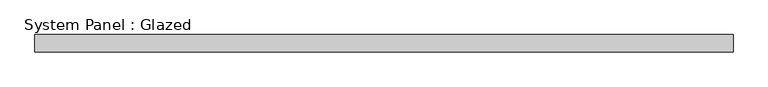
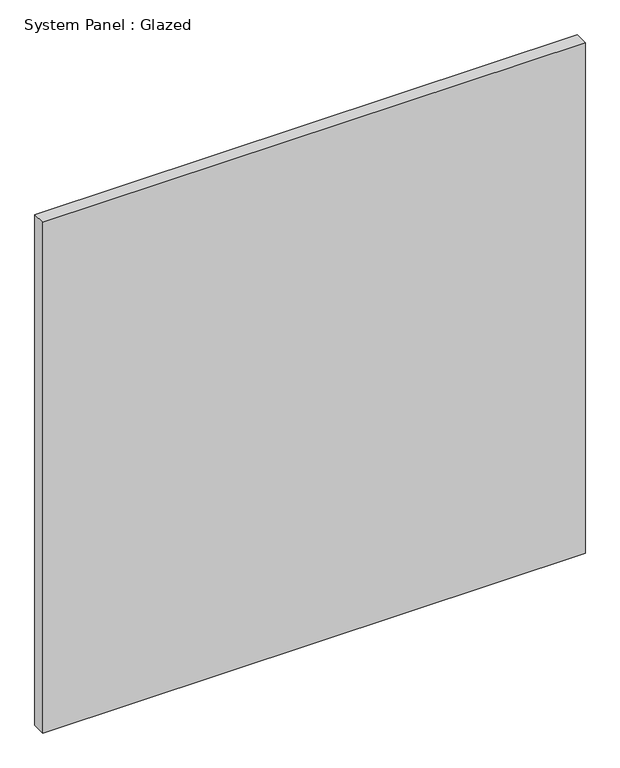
"""IFC4 building model written with IfcOpenShell, lengths in millimetres: plate geometry, System Panel : Glazed."""

from ifc_helpers import new_model, si_unit, origin, origin_with_axes, place, context, project, spatial, polyline, outline, extrude, source, transform, mapped, element, save


def system_panel_glazed_1cdab955(model_context):
    return source(origin(), model_context, "Body", "SweptSolid", [
        extrude(outline(polyline([(501.3420756, 24.5), (-501.3420756, 24.5), (-501.3420756, 49.5), (501.3420756, 49.5), (501.3420756, 24.5)])), origin_with_axes(), (0.0, 0.0, 1.0), 997.3252755),
    ])


if __name__ == "__main__":
    model = new_model("IFC4")
    model_context = context("Model", 3, world=origin())
    ifc_project = project(units=[si_unit("LENGTHUNIT", "METRE", prefix="MILLI")], contexts=[model_context])
    site = spatial("IfcSite", under=ifc_project)
    building = spatial("IfcBuilding", under=site)
    placement = place(None, origin())
    system_panel_glazed_shape = system_panel_glazed_1cdab955(model_context)
    element("IfcPlate", 1, ObjectType="System Panel : Glazed", at=placement, inside=building, context=model_context, shape_type="MappedRepresentation", body=[
        mapped(system_panel_glazed_shape, transform((0.0, 0.0, 0.0), x_axis=(1.0, 0.0, 0.0), y_axis=(0.0, 1.0, 0.0), z_axis=(0.0, 0.0, 1.0))),
    ])
    save(model, "model.ifc")
